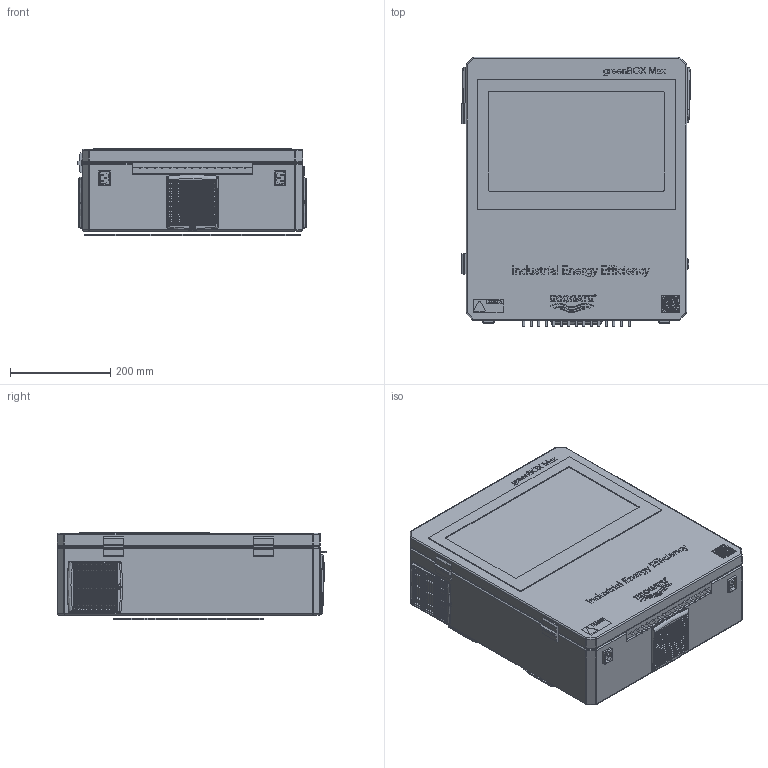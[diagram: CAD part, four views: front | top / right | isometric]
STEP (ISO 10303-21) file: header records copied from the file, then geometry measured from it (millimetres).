
FILE_DESCRIPTION( ('This file contains a STEP AP42 implementation' ,'as created by ZW3D STEP Interface translator.') ,'2;1' );
FILE_NAME( 'GB NEXT MAX Maketa.stp' ,'23 4 3.14 410', (''), ('ZWCAD Software Co.'), 'Version 1.0', 'ZW3D to STEP translator', '' );
FILE_SCHEMA(('AUTOMOTIVE_DESIGN { 1 0 10303 214 1 1 1 1 }'));
Length unit declared in the file: millimetre
Products named in the file (1): 0
Bounding box: 457.14 x 538 x 174.2 mm (x, y, z)
Volume: 37495625.7 mm3; surface area: 1540266.4 mm2
Topology: 2 solids, 5 shells, 4582 faces, 16920 edges, 17515 vertices
Faces by surface type: plane 2505, bspline 1154, cylinder 700, cone 149, torus 42, sphere 32
Full cylindrical faces by diameter (mm): 4 x15, 8 x4, 14.14 x2, 20.14 x2
Entity records: 221843 total; most frequent: CARTESIAN_POINT 90151, ORIENTED_EDGE 24006, DIRECTION 20731, EDGE_CURVE 12018, VECTOR 11881, LINE 11881, VERTEX_POINT 7729, EDGE_LOOP 5334
